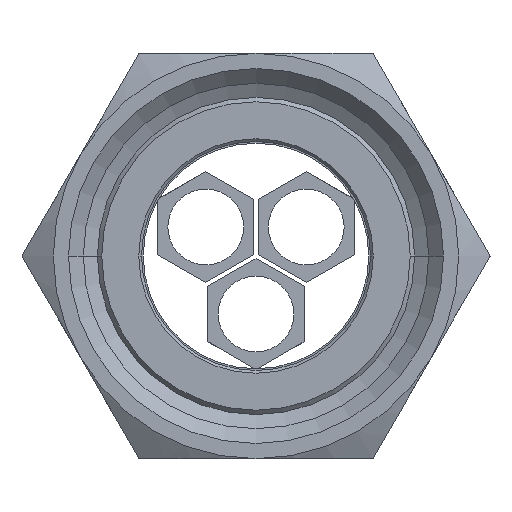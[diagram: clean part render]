
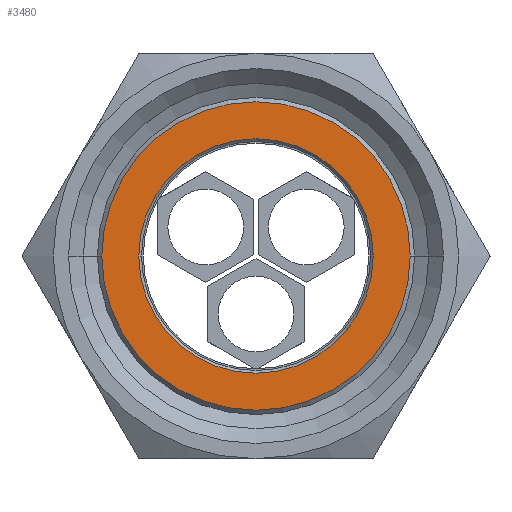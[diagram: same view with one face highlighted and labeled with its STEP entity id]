
A CAD part, front view. The second image highlights one B-rep face of the part: STEP entity #3480.
In plain terms, the highlighted planar face has unit normal (0, -1, 0).
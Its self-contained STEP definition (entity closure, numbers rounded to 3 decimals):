
#120=CARTESIAN_POINT('',(463.944,36.062,0.));
#130=VERTEX_POINT('',#120);
#160=CARTESIAN_POINT('',(477.244,36.062,0.));
#170=DIRECTION('',(0.,1.,0.));
#180=DIRECTION('',(1.,0.,0.));
#190=AXIS2_PLACEMENT_3D('',#160,#170,#180);
#200=CIRCLE('',#190,13.3);
#210=CARTESIAN_POINT('',(490.544,36.062,
0.));
#220=VERTEX_POINT('',#210);
#230=EDGE_CURVE('',#130,#220,#200,.T.);
#3100=CARTESIAN_POINT('',(459.744,36.062,
0.));
#3110=VERTEX_POINT('',#3100);
#3190=CARTESIAN_POINT('',(494.744,36.062,0.));
#3200=VERTEX_POINT('',#3190);
#3230=CARTESIAN_POINT('',(477.244,36.062,0.));
#3240=DIRECTION('',(0.,1.,0.));
#3250=DIRECTION('',(1.,0.,0.));
#3260=AXIS2_PLACEMENT_3D('',#3230,#3240,#3250);
#3270=CIRCLE('',#3260,17.5);
#3280=EDGE_CURVE('',#3110,#3200,#3270,.T.);
#3330=CARTESIAN_POINT('',(492.644,36.062,0.));
#3340=DIRECTION('',(-0.,-1.,-0.));
#3350=DIRECTION('',(-1.,0.,0.));
#3360=AXIS2_PLACEMENT_3D('',#3330,#3340,#3350);
#3370=PLANE('',#3360);
#3380=EDGE_CURVE('',#220,#130,#200,.T.);
#3390=ORIENTED_EDGE('',*,*,#3380,.T.);
#3400=ORIENTED_EDGE('',*,*,#230,.T.);
#3410=EDGE_LOOP('',(#3400,#3390));
#3420=FACE_BOUND('',#3410,.T.);
#3430=EDGE_CURVE('',#3200,#3110,#3270,.T.);
#3440=ORIENTED_EDGE('',*,*,#3430,.F.);
#3450=ORIENTED_EDGE('',*,*,#3280,.F.);
#3460=EDGE_LOOP('',(#3450,#3440));
#3470=FACE_OUTER_BOUND('',#3460,.T.);
#3480=ADVANCED_FACE('',(#3420,#3470),#3370,.T.);
